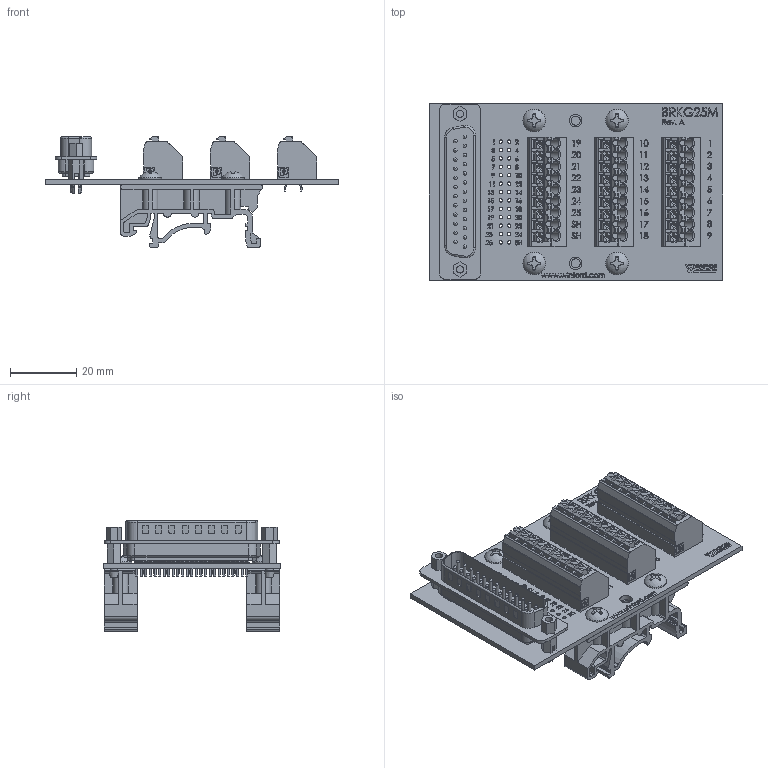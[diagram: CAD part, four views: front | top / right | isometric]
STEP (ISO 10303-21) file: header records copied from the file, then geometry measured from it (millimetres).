
FILE_DESCRIPTION (( 'STEP AP214' ), '1' );
FILE_NAME ('brkg25m-s-din_rev_a.step', '2017-10-08T22:51:45', ( '' ), ( '' ), 'SwSTEP 2.0', 'SolidWorks 2017', '' );
FILE_SCHEMA (( 'AUTOMOTIVE_DESIGN' ));
Length unit declared in the file: inch
Products named in the file (6): brkg25m-s-din_rev_a; BRKG25M Board; dinm01; Spring Terminal 9 Position; Screw_SCSMPP-6-0.375_90184A127; Male Straight 25 Pin
Assembly tree (11 placements, depth 2):
  brkg25m-s-din_rev_a
    BRKG25M Board
    dinm01  x2
    Male Straight 25 Pin
    Screw_SCSMPP-6-0.375_90184A127  x4
    Spring Terminal 9 Position  x3
Bounding box: 88.65 x 53.34 x 33.67 mm (x, y, z)
Volume: 27491.1 mm3; surface area: 31477.3 mm2
Topology: 63 solids, 63 shells, 5043 faces, 13412 edges, 8845 vertices
Faces by surface type: plane 3115, cylinder 1018, bspline 723, cone 154, torus 29, sphere 4
Full cylindrical faces by diameter (mm): 0.457 x3, 0.6 x25, 0.9 x50, 1 x77, 1.016 x50, 1.04 x12, 1.041 x27, 1.14 x12, 1.38 x3, 1.47 x3, 1.5 x25, 2.159 x2, 2.75 x6, 3 x29, 3.05 x2, 3.302 x2, 3.81 x6
Entity records: 170356 total; most frequent: CARTESIAN_POINT 56885, ORIENTED_EDGE 16032, DIRECTION 12892, EDGE_CURVE 8016, VERTEX_POINT 5481, LINE 5292, VECTOR 5292, EDGE_LOOP 4053
